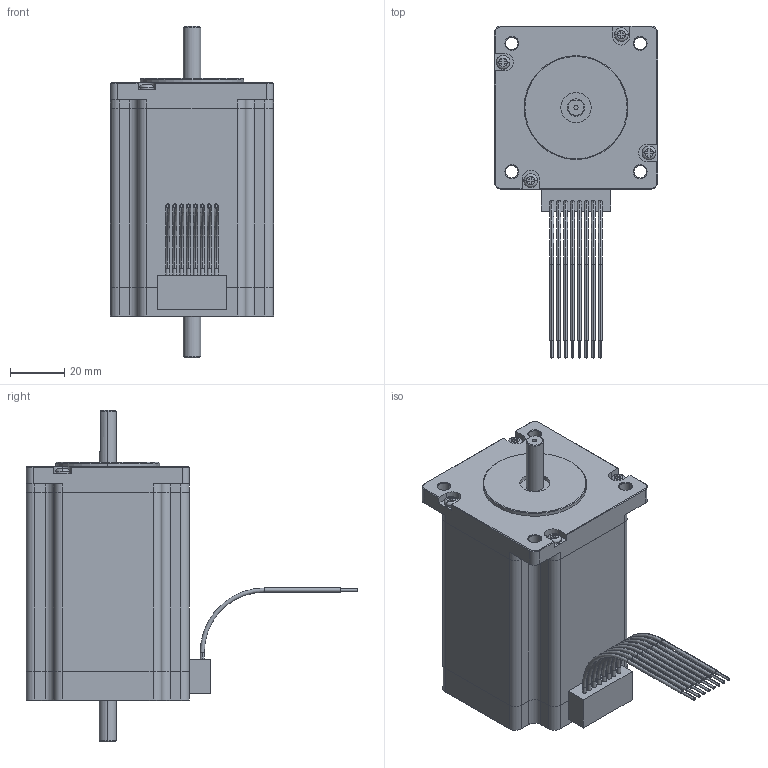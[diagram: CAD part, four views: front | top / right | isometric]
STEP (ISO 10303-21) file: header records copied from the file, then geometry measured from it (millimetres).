
FILE_DESCRIPTION (( 'STEP AP214' ), '1' );
FILE_NAME ('24Y504D-LW8.STEP', '2010-06-11T18:05:11', ( 'Tim Raines' ), ( 'Anaheim Automation' ), 'SwSTEP 2.0', 'SolidWorks 2010', '' );
FILE_SCHEMA (( 'AUTOMOTIVE_DESIGN' ));
Length unit declared in the file: inch
Products named in the file (1): 24Y504D-LW8
Bounding box: 59.94 x 121.84 x 121.56 mm (x, y, z)
Volume: 280214.3 mm3; surface area: 31752.9 mm2
Topology: 1 solids, 1 shells, 397 faces, 994 edges, 622 vertices
Faces by surface type: plane 175, cylinder 135, cone 63, torus 24
Entity records: 17080 total; most frequent: CARTESIAN_POINT 2256, DIRECTION 2099, ORIENTED_EDGE 1964, EDGE_CURVE 982, AXIS2_PLACEMENT_3D 777, VERTEX_POINT 622, VECTOR 545, LINE 545
